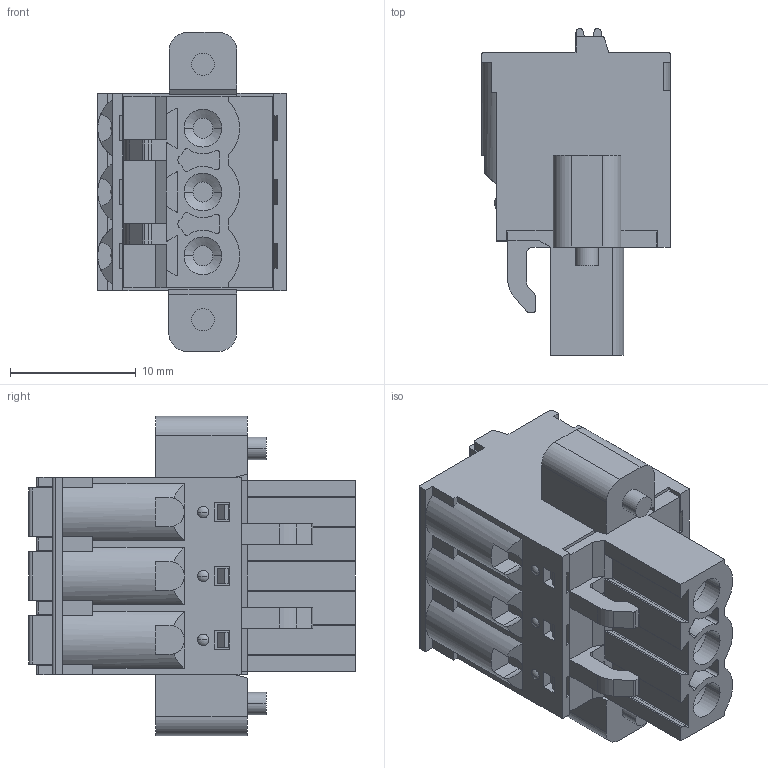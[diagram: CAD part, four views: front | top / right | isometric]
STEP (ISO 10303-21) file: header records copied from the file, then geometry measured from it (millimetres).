
FILE_DESCRIPTION((''),'2;1');
FILE_NAME('333','2019-04-09T',('zhenbing.lai'),(''),'CREO PARAMETRIC BY PTC INC, 2016260','CREO PARAMETRIC BY PTC INC, 2016260','');
FILE_SCHEMA(('CONFIG_CONTROL_DESIGN'));
Length unit declared in the file: millimetre
Products named in the file (1): 333
Bounding box: 15 x 26 x 25.4 mm (x, y, z)
Volume: 4376.5 mm3; surface area: 2670.2 mm2
Topology: 1 solids, 7 shells, 480 faces, 1269 edges, 839 vertices
Faces by surface type: plane 351, cylinder 110, cone 6, sphere 6, torus 4, bspline 3
Entity records: 14981 total; most frequent: CARTESIAN_POINT 2865, ORIENTED_EDGE 2526, DIRECTION 2460, EDGE_CURVE 1263, VECTOR 930, LINE 930, VERTEX_POINT 839, AXIS2_PLACEMENT_3D 765
